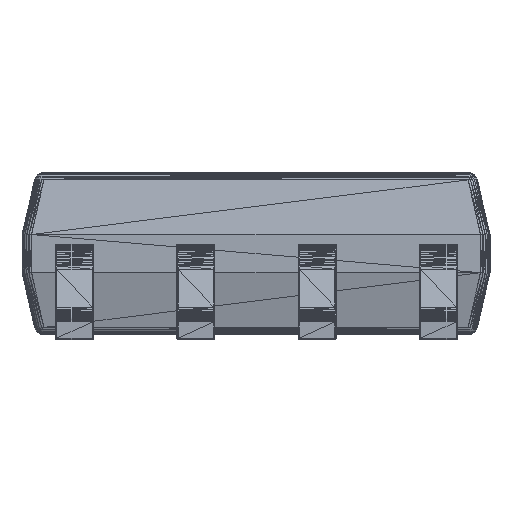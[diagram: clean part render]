
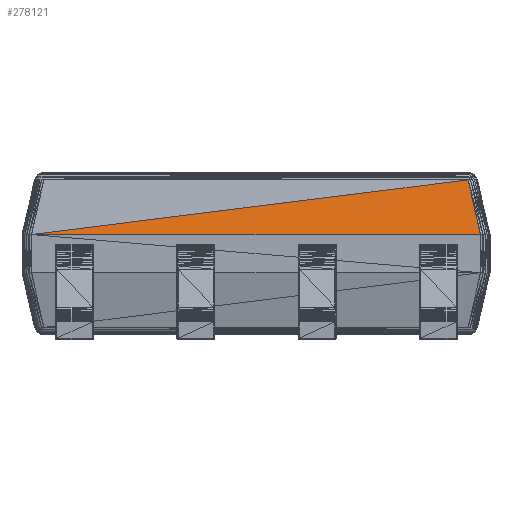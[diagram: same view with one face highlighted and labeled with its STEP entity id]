
A CAD part, front view. The second image highlights one B-rep face of the part: STEP entity #278121.
In plain terms, the highlighted planar face has unit normal (0, -0.974, 0.225).
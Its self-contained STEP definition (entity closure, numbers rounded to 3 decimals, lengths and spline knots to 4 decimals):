
#17502=DIRECTION('',(-1.0,0.0,0.0));
#17503=VECTOR('',#17502,1000.0);
#270683=CARTESIAN_POINT('',(2.35,-1.95,1.15));
#270684=VERTEX_POINT('',#270683);
#270685=CARTESIAN_POINT('',(-2.35,-1.95,1.15));
#270686=VERTEX_POINT('',#270685);
#270749=CARTESIAN_POINT('',(2.2204,-1.8179,1.7225));
#270750=VERTEX_POINT('',#270749);
#277605=LINE('',#270683,#17503);
#277606=EDGE_CURVE('',#270684,#270686,#277605,.T.);
#277888=DIRECTION('',(-0.992,-0.029,-0.124));
#278096=DIRECTION('',(0.215,-0.22,-0.952));
#278097=VECTOR('',#278096,1000.0);
#278098=LINE('',#270749,#278097);
#278099=EDGE_CURVE('',#270750,#270684,#278098,.T.);
#278109=VECTOR('',#277888,1000.0);
#278110=LINE('',#270749,#278109);
#278111=EDGE_CURVE('',#270750,#270686,#278110,.T.);
#278112=ORIENTED_EDGE('',*,*,#278099,.F.);
#278113=ORIENTED_EDGE('',*,*,#278111,.T.);
#278114=ORIENTED_EDGE('',*,*,#277606,.F.);
#278115=DIRECTION('',(0.0,-0.974,0.225));
#278116=DIRECTION('',(-0.215,0.22,0.952));
#278117=AXIS2_PLACEMENT_3D('',#270683,#278115,#278116);
#278118=PLANE('',#278117);
#278119=EDGE_LOOP('',(#278112,#278113,#278114));
#278120=FACE_BOUND('',#278119,.T.);
#278121=ADVANCED_FACE('',(#278120),#278118,.T.);
